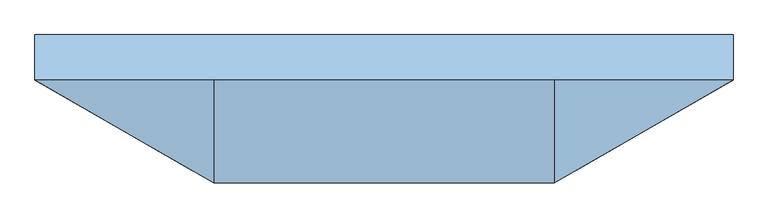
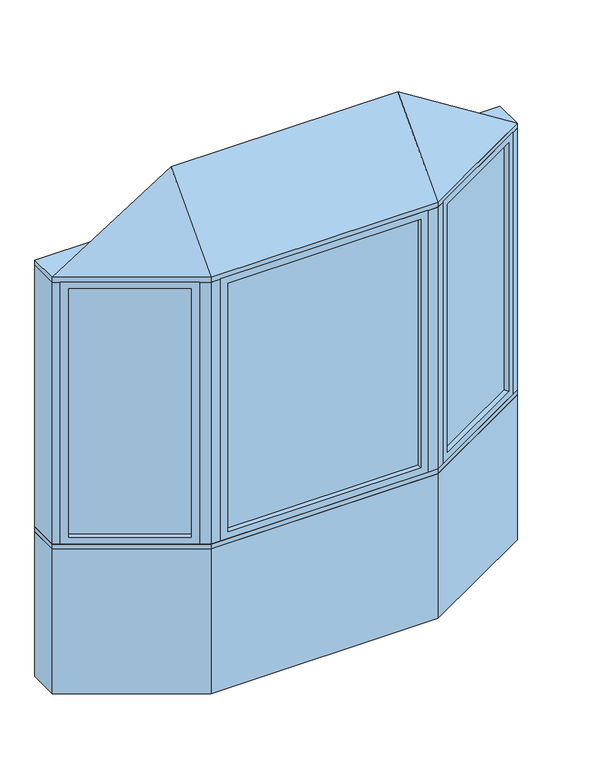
"""IFC4 building model written with IfcOpenShell, lengths in millimetres: window geometry, Pollard_Windows_Tudor Casement Bows and Bays : AML-BAY 30 AFR0614-12-600."""

from ifc_helpers import new_model, si_unit, frame, origin, origin_with_axes, place, context, project, spatial, polyline, outline, extrude, faceted_brep, source, transform, mapped, element, save


def window_a2543a47(model_context):
    return source(origin(), model_context, "Body", "SolidModel", [
        extrude(outline(polyline([(1113.112102, -82.0482469), (624.8834764, -363.9271754), (622.3434764, -359.5277664), (1110.572102, -77.6488379), (1113.112102, -82.0482469)])), frame((0.0, 0.0, 823.1628), z_axis=(0.0, 0.0, 1.0), x_axis=(1.0, 0.0, 0.0)), (0.0, 0.0, 1.0), 1353.6704),
        faceted_brep([(1102.1135794, -88.3982469, 835.8628), (1114.8135794, -110.3952922, 835.8628), (1114.8135794, -110.3952922, 2164.1332), (1102.1135794, -88.3982469, 2164.1332), (1110.572102, -77.6488379, 823.1628), (1113.112102, -82.0482469, 823.1628), (1113.112102, -82.0482469, 2176.8332), (1110.572102, -77.6488379, 2176.8332), (1086.8735794, -62.0017926, 835.8628), (1099.5735794, -83.9988379, 835.8628), (1099.5735794, -83.9988379, 2164.1332), (1086.8735794, -62.0017926, 2164.1332), (1145.8734073, -92.4628922, 799.998), (1117.9334073, -44.0693926, 799.998), (1117.9334073, -44.0693926, 2199.998), (1145.8734073, -92.4628922, 2199.998), (648.581999, -379.5742207, 2164.1332), (635.881999, -357.5771754, 2164.1332), (624.8834764, -363.9271754, 2176.8332), (622.3434764, -359.5277664, 2176.8332), (633.341999, -353.1777664, 2164.1332), (620.641999, -331.1807211, 2164.1332), (589.5821711, -349.1131211, 2199.998), (617.5221711, -397.5066207, 2199.998), (648.581999, -379.5742207, 835.8628), (635.881999, -357.5771754, 835.8628), (624.8834764, -363.9271754, 823.1628), (622.3434764, -359.5277664, 823.1628), (633.341999, -353.1777664, 835.8628), (620.641999, -331.1807211, 835.8628), (589.5821711, -349.1131211, 799.998), (617.5221711, -397.5066207, 799.998)], [[[0, 1, 2, 3]], [[4, 5, 6, 7]], [[8, 9, 10, 11]], [[12, 13, 14, 15]], [[3, 2, 16, 17]], [[7, 6, 18, 19]], [[11, 10, 20, 21]], [[15, 14, 22, 23]], [[17, 16, 24, 25]], [[19, 18, 26, 27]], [[21, 20, 28, 29]], [[23, 22, 30, 31]], [[25, 24, 1, 0]], [[5, 26, 18, 6], [3, 17, 25, 0]], [[27, 26, 5, 4]], [[7, 19, 27, 4], [9, 28, 20, 10]], [[29, 28, 9, 8]], [[13, 30, 22, 14], [11, 21, 29, 8]], [[31, 30, 13, 12]], [[15, 23, 31, 12], [1, 24, 16, 2]]]),
        extrude(outline(polyline([(-624.8834764, -363.9271754), (-1113.112102, -82.0482469), (-1110.572102, -77.6488379), (-622.3434764, -359.5277664), (-624.8834764, -363.9271754)])), frame((0.0, 0.0, 823.1628), z_axis=(0.0, 0.0, 1.0), x_axis=(1.0, 0.0, 0.0)), (0.0, 0.0, 1.0), 1353.6704),
        faceted_brep([(-633.341999, -353.1777664, 2164.1332), (-620.641999, -331.1807211, 2164.1332), (-620.641999, -331.1807211, 835.8628), (-633.341999, -353.1777664, 835.8628), (-624.8834764, -363.9271754, 2176.8332), (-622.3434764, -359.5277664, 2176.8332), (-622.3434764, -359.5277664, 823.1628), (-624.8834764, -363.9271754, 823.1628), (-648.581999, -379.5742207, 2164.1332), (-635.881999, -357.5771754, 2164.1332), (-635.881999, -357.5771754, 835.8628), (-648.581999, -379.5742207, 835.8628), (-589.5821711, -349.1131211, 2199.998), (-617.5221711, -397.5066207, 2199.998), (-617.5221711, -397.5066207, 799.998), (-589.5821711, -349.1131211, 799.998), (-1086.8735794, -62.0017926, 835.8628), (-1099.5735794, -83.9988379, 835.8628), (-1110.572102, -77.6488379, 823.1628), (-1113.112102, -82.0482469, 823.1628), (-1102.1135794, -88.3982469, 835.8628), (-1114.8135794, -110.3952922, 835.8628), (-1145.8734073, -92.4628922, 799.998), (-1117.9334073, -44.0693926, 799.998), (-1086.8735794, -62.0017926, 2164.1332), (-1099.5735794, -83.9988379, 2164.1332), (-1110.572102, -77.6488379, 2176.8332), (-1113.112102, -82.0482469, 2176.8332), (-1102.1135794, -88.3982469, 2164.1332), (-1114.8135794, -110.3952922, 2164.1332), (-1145.8734073, -92.4628922, 2199.998), (-1117.9334073, -44.0693926, 2199.998)], [[[0, 1, 2, 3]], [[4, 5, 6, 7]], [[8, 9, 10, 11]], [[12, 13, 14, 15]], [[3, 2, 16, 17]], [[7, 6, 18, 19]], [[11, 10, 20, 21]], [[15, 14, 22, 23]], [[17, 16, 24, 25]], [[19, 18, 26, 27]], [[21, 20, 28, 29]], [[23, 22, 30, 31]], [[15, 23, 31, 12], [1, 24, 16, 2]], [[25, 24, 1, 0]], [[5, 26, 18, 6], [3, 17, 25, 0]], [[27, 26, 5, 4]], [[7, 19, 27, 4], [9, 28, 20, 10]], [[29, 28, 9, 8]], [[13, 30, 22, 14], [11, 21, 29, 8]], [[31, 30, 13, 12]]]),
        extrude(outline(polyline([(501.0561009, -397.1066207), (-501.0561009, -397.1066207), (-501.0561009, -392.0266207), (501.0561009, -392.0266207), (501.0561009, -397.1066207)])), frame((0.0, 0.0, 823.1628), z_axis=(0.0, 0.0, 1.0), x_axis=(1.0, 0.0, 0.0)), (0.0, 0.0, 1.0), 1353.6704),
        faceted_brep([(488.3561009, -397.1066207, 835.8628), (488.3561009, -422.5066207, 835.8628), (488.3561009, -422.5066207, 2164.1332), (488.3561009, -397.1066207, 2164.1332), (501.0561009, -392.0266207, 823.1628), (501.0561009, -397.1066207, 823.1628), (501.0561009, -397.1066207, 2176.8332), (501.0561009, -392.0266207, 2176.8332), (488.3561009, -366.6266207, 835.8628), (488.3561009, -392.0266207, 835.8628), (488.3561009, -392.0266207, 2164.1332), (488.3561009, -366.6266207, 2164.1332), (524.2209009, -422.5066207, 799.998), (524.2209009, -366.6266207, 799.998), (524.2209009, -366.6266207, 2199.998), (524.2209009, -422.5066207, 2199.998), (-488.3561009, -422.5066207, 2164.1332), (-488.3561009, -397.1066207, 2164.1332), (-501.0561009, -397.1066207, 2176.8332), (-501.0561009, -392.0266207, 2176.8332), (-488.3561009, -392.0266207, 2164.1332), (-488.3561009, -366.6266207, 2164.1332), (-524.2209009, -366.6266207, 2199.998), (-524.2209009, -422.5066207, 2199.998), (-488.3561009, -422.5066207, 835.8628), (-488.3561009, -397.1066207, 835.8628), (-501.0561009, -397.1066207, 823.1628), (-501.0561009, -392.0266207, 823.1628), (-488.3561009, -392.0266207, 835.8628), (-488.3561009, -366.6266207, 835.8628), (-524.2209009, -366.6266207, 799.998), (-524.2209009, -422.5066207, 799.998)], [[[0, 1, 2, 3]], [[4, 5, 6, 7]], [[8, 9, 10, 11]], [[12, 13, 14, 15]], [[3, 2, 16, 17]], [[7, 6, 18, 19]], [[11, 10, 20, 21]], [[15, 14, 22, 23]], [[17, 16, 24, 25]], [[19, 18, 26, 27]], [[21, 20, 28, 29]], [[23, 22, 30, 31]], [[15, 23, 31, 12], [1, 24, 16, 2]], [[25, 24, 1, 0]], [[5, 26, 18, 6], [3, 17, 25, 0]], [[27, 26, 5, 4]], [[7, 19, 27, 4], [9, 28, 20, 10]], [[29, 28, 9, 8]], [[13, 30, 22, 14], [11, 21, 29, 8]], [[31, 30, 13, 12]]]),
        faceted_brep([(1176.5, -74.7806207, 2225.398), (574.2209009, -422.5066207, 2225.398), (-574.2209009, -422.5066207, 2225.398), (-1176.5, -74.7806207, 2225.398), (-574.2209009, -74.7806207, 2606.398), (574.2209009, -74.7806207, 2606.398)], [[[0, 1, 2, 3]], [[3, 2, 4]], [[2, 1, 5, 4]], [[1, 0, 5]], [[0, 3, 4, 5]]]),
        extrude(outline(polyline([(-1176.5, 77.6193793), (1176.5, 77.6193793), (1176.5, -74.7806207), (574.2209009, -422.5066207), (-574.2209009, -422.5066207), (-1176.5, -74.7806207), (-1176.5, 77.6193793)])), frame((0.0, 0.0, 2199.998), z_axis=(0.0, 0.0, 1.0), x_axis=(1.0, 0.0, 0.0)), (0.0, 0.0, 1.0), 25.4),
        extrude(outline(polyline([(-1176.5, -74.7806207), (-1176.5, 77.6193793), (-1135.6645431, 77.6193793), (-1135.6645431, -74.7806207), (-1145.8734073, -92.4628922), (-1176.5, -74.7806207)])), frame((0.0, 0.0, 799.998), z_axis=(0.0, 0.0, 1.0), x_axis=(1.0, 0.0, 0.0)), (0.0, 0.0, 1.0), 1400.0),
        extrude(outline(polyline([(1176.5, 77.6193793), (1176.5, -74.7806207), (1145.8734073, -92.4628922), (1135.6645431, -74.7806207), (1135.6645431, 77.6193793), (1176.5, 77.6193793)])), frame((0.0, 0.0, 799.998), z_axis=(0.0, 0.0, 1.0), x_axis=(1.0, 0.0, 0.0)), (0.0, 0.0, 1.0), 1400.0),
        extrude(outline(polyline([(574.2209009, -422.5066207), (524.2209009, -422.5066207), (524.2209009, -372.5066207), (560.8234413, -372.5066207), (592.5221711, -354.2053505), (617.5221711, -397.5066207), (574.2209009, -422.5066207)])), frame((0.0, 0.0, 799.998), z_axis=(0.0, 0.0, 1.0), x_axis=(1.0, 0.0, 0.0)), (0.0, 0.0, 1.0), 1400.0),
        extrude(outline(polyline([(-574.2209009, -422.5066207), (-617.5221711, -397.5066207), (-592.5221711, -354.2053505), (-560.8234413, -372.5066207), (-524.2209009, -372.5066207), (-524.2209009, -422.5066207), (-574.2209009, -422.5066207)])), frame((0.0, 0.0, 799.998), z_axis=(0.0, 0.0, 1.0), x_axis=(1.0, 0.0, 0.0)), (0.0, 0.0, 1.0), 1400.0),
        extrude(outline(polyline([(-574.2209009, -422.5066207), (-1176.5, -74.7806207), (-1176.5, 77.6193793), (-1135.6645431, 77.6193793), (-533.385444, -270.1066207), (533.385444, -270.1066207), (1135.6645431, 77.6193793), (1176.5, 77.6193793), (1176.5, -74.7806207), (574.2209009, -422.5066207), (-574.2209009, -422.5066207)])), frame((0.0, 0.0, 774.598), z_axis=(0.0, 0.0, 1.0), x_axis=(1.0, 0.0, 0.0)), (0.0, 0.0, 1.0), 25.4),
        extrude(outline(polyline([(-1176.5, -74.7806207), (-1176.5, 77.6193793), (-1135.6645431, 77.6193793), (-533.385444, -270.1066207), (533.385444, -270.1066207), (1135.6645431, 77.6193793), (1176.5, 77.6193793), (1176.5, -74.7806207), (574.2209009, -422.5066207), (-574.2209009, -422.5066207), (-1176.5, -74.7806207)])), origin_with_axes(), (0.0, 0.0, 1.0), 774.598),
    ])


if __name__ == "__main__":
    model = new_model("IFC4")
    model_context = context("Model", 3, world=origin())
    ifc_project = project(units=[si_unit("LENGTHUNIT", "METRE", prefix="MILLI")], contexts=[model_context])
    site = spatial("IfcSite", under=ifc_project)
    building = spatial("IfcBuilding", under=site)
    placement = place(None, origin())
    window_shape = window_a2543a47(model_context)
    element("IfcWindow", 1, ObjectType="Pollard_Windows_Tudor Casement Bows and Bays : AML-BAY 30 AFR0614-12-600", at=placement, inside=building, context=model_context, shape_type="MappedRepresentation", body=[
        mapped(window_shape, transform((0.0, 0.0, 0.0), x_axis=(1.0, 0.0, 0.0), y_axis=(0.0, 1.0, 0.0), z_axis=(0.0, 0.0, 1.0))),
    ])
    save(model, "model.ifc")
